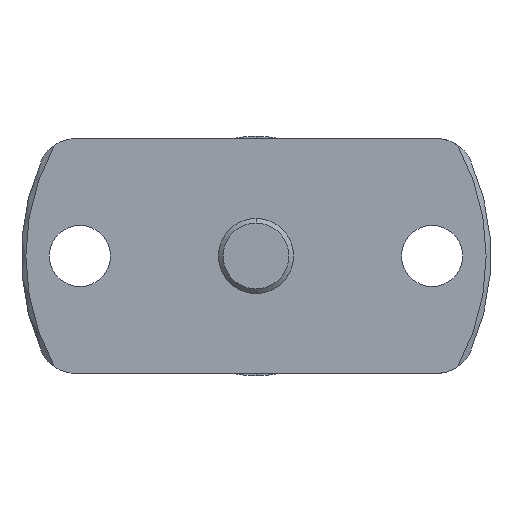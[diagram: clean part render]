
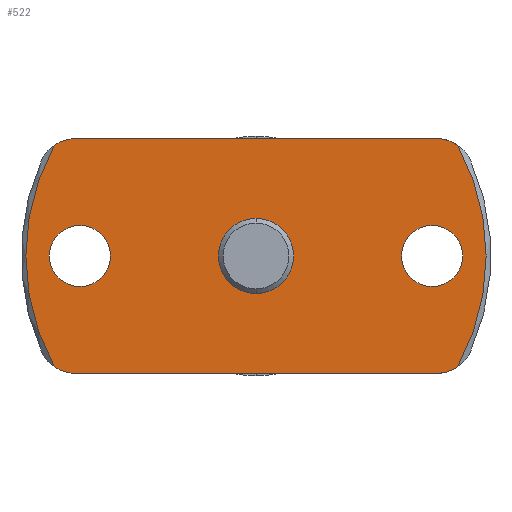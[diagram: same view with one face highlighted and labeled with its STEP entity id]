
A CAD part, front view. The second image highlights one B-rep face of the part: STEP entity #522.
In plain terms, the highlighted planar face has unit normal (0, -1, 0).
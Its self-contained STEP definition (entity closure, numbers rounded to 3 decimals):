
#155=CARTESIAN_POINT('Vertex',(-42.952,0.,-23.583)) ;
#175=CARTESIAN_POINT('Vertex',(-38.406,0.,-25.)) ;
#178=CARTESIAN_POINT('Axis2P3D Location',(-38.406,0.,-17.)) ;
#199=CARTESIAN_POINT('Axis2P3D Location',(0.,0.,0.)) ;
#203=CARTESIAN_POINT('Vertex',(-42.952,0.,23.583)) ;
#234=CARTESIAN_POINT('Axis2P3D Location',(-38.406,0.,17.)) ;
#238=CARTESIAN_POINT('Vertex',(-38.406,0.,25.)) ;
#393=CARTESIAN_POINT('Vertex',(38.406,0.,-25.)) ;
#396=CARTESIAN_POINT('Line Origine',(0.,0.,-25.)) ;
#415=CARTESIAN_POINT('Axis2P3D Location',(8.,0.,0.)) ;
#421=CARTESIAN_POINT('Control Point',(38.406,0.,-25.)) ;
#422=CARTESIAN_POINT('Control Point',(39.237,0.,-25.)) ;
#423=CARTESIAN_POINT('Control Point',(40.068,0.,-24.892)) ;
#424=CARTESIAN_POINT('Control Point',(40.881,0.,-24.676)) ;
#425=CARTESIAN_POINT('Control Point',(41.783,0.,-24.305)) ;
#426=CARTESIAN_POINT('Control Point',(42.612,0.,-23.807)) ;
#427=CARTESIAN_POINT('Control Point',(42.727,0.,-23.735)) ;
#428=CARTESIAN_POINT('Control Point',(42.84,0.,-23.66)) ;
#429=CARTESIAN_POINT('Control Point',(42.952,0.,-23.583)) ;
#430=CARTESIAN_POINT('Vertex',(42.952,0.,-23.583)) ;
#433=CARTESIAN_POINT('Axis2P3D Location',(0.,0.,0.)) ;
#437=CARTESIAN_POINT('Vertex',(42.952,0.,23.583)) ;
#441=CARTESIAN_POINT('Control Point',(42.952,0.,23.583)) ;
#442=CARTESIAN_POINT('Control Point',(42.268,0.,24.055)) ;
#443=CARTESIAN_POINT('Control Point',(41.522,0.,24.439)) ;
#444=CARTESIAN_POINT('Control Point',(40.731,0.,24.723)) ;
#445=CARTESIAN_POINT('Control Point',(39.778,0.,24.93)) ;
#446=CARTESIAN_POINT('Control Point',(38.813,0.,24.991)) ;
#447=CARTESIAN_POINT('Control Point',(38.677,0.,24.997)) ;
#448=CARTESIAN_POINT('Control Point',(38.541,0.,25.)) ;
#449=CARTESIAN_POINT('Control Point',(38.406,0.,25.)) ;
#450=CARTESIAN_POINT('Vertex',(38.406,0.,25.)) ;
#453=CARTESIAN_POINT('Line Origine',(0.,0.,25.)) ;
#468=CARTESIAN_POINT('Axis2P3D Location',(-37.5,0.,0.)) ;
#472=CARTESIAN_POINT('Vertex',(-37.5,0.,6.5)) ;
#474=CARTESIAN_POINT('Vertex',(-37.5,0.,-6.5)) ;
#477=CARTESIAN_POINT('Axis2P3D Location',(-37.5,0.,0.)) ;
#486=CARTESIAN_POINT('Axis2P3D Location',(37.5,0.,0.)) ;
#490=CARTESIAN_POINT('Vertex',(37.5,0.,6.5)) ;
#492=CARTESIAN_POINT('Vertex',(37.5,0.,-6.5)) ;
#495=CARTESIAN_POINT('Axis2P3D Location',(37.5,0.,0.)) ;
#504=CARTESIAN_POINT('Axis2P3D Location',(0.,0.,0.)) ;
#508=CARTESIAN_POINT('Vertex',(0.,0.,8.)) ;
#510=CARTESIAN_POINT('Vertex',(0.,0.,-8.)) ;
#513=CARTESIAN_POINT('Axis2P3D Location',(0.,0.,0.)) ;
#179=DIRECTION('Axis2P3D Direction',(0.,1.,0.)) ;
#200=DIRECTION('Axis2P3D Direction',(0.,1.,0.)) ;
#235=DIRECTION('Axis2P3D Direction',(0.,1.,0.)) ;
#397=DIRECTION('Vector Direction',(-1.,0.,0.)) ;
#416=DIRECTION('Axis2P3D Direction',(0.,1.,0.)) ;
#417=DIRECTION('Axis2P3D XDirection',(0.,0.,1.)) ;
#434=DIRECTION('Axis2P3D Direction',(0.,1.,0.)) ;
#454=DIRECTION('Vector Direction',(1.,0.,0.)) ;
#469=DIRECTION('Axis2P3D Direction',(0.,1.,0.)) ;
#478=DIRECTION('Axis2P3D Direction',(0.,1.,0.)) ;
#487=DIRECTION('Axis2P3D Direction',(0.,1.,0.)) ;
#496=DIRECTION('Axis2P3D Direction',(0.,1.,0.)) ;
#505=DIRECTION('Axis2P3D Direction',(0.,1.,0.)) ;
#514=DIRECTION('Axis2P3D Direction',(0.,1.,0.)) ;
#180=AXIS2_PLACEMENT_3D('Circle Axis2P3D',#178,#179,$) ;
#201=AXIS2_PLACEMENT_3D('Circle Axis2P3D',#199,#200,$) ;
#236=AXIS2_PLACEMENT_3D('Circle Axis2P3D',#234,#235,$) ;
#418=AXIS2_PLACEMENT_3D('Plane Axis2P3D',#415,#416,#417) ;
#435=AXIS2_PLACEMENT_3D('Circle Axis2P3D',#433,#434,$) ;
#470=AXIS2_PLACEMENT_3D('Circle Axis2P3D',#468,#469,$) ;
#479=AXIS2_PLACEMENT_3D('Circle Axis2P3D',#477,#478,$) ;
#488=AXIS2_PLACEMENT_3D('Circle Axis2P3D',#486,#487,$) ;
#497=AXIS2_PLACEMENT_3D('Circle Axis2P3D',#495,#496,$) ;
#506=AXIS2_PLACEMENT_3D('Circle Axis2P3D',#504,#505,$) ;
#515=AXIS2_PLACEMENT_3D('Circle Axis2P3D',#513,#514,$) ;
#459=ORIENTED_EDGE('',*,*,#400,.F.) ;
#460=ORIENTED_EDGE('',*,*,#432,.T.) ;
#461=ORIENTED_EDGE('',*,*,#439,.F.) ;
#462=ORIENTED_EDGE('',*,*,#452,.T.) ;
#463=ORIENTED_EDGE('',*,*,#457,.F.) ;
#464=ORIENTED_EDGE('',*,*,#240,.T.) ;
#465=ORIENTED_EDGE('',*,*,#205,.F.) ;
#466=ORIENTED_EDGE('',*,*,#182,.T.) ;
#483=ORIENTED_EDGE('',*,*,#476,.T.) ;
#484=ORIENTED_EDGE('',*,*,#481,.T.) ;
#501=ORIENTED_EDGE('',*,*,#494,.T.) ;
#502=ORIENTED_EDGE('',*,*,#499,.T.) ;
#519=ORIENTED_EDGE('',*,*,#512,.T.) ;
#520=ORIENTED_EDGE('',*,*,#517,.T.) ;
#485=FACE_BOUND('',#482,.T.) ;
#503=FACE_BOUND('',#500,.T.) ;
#521=FACE_BOUND('',#518,.T.) ;
#398=VECTOR('Line Direction',#397,1.) ;
#455=VECTOR('Line Direction',#454,1.) ;
#522=ADVANCED_FACE('NONE',(#467,#485,#503,#521),#419,.F.) ;
#420=B_SPLINE_CURVE_WITH_KNOTS('',5,(#421,#422,#423,#424,#425,#426,#427,#428,#429),.UNSPECIFIED.,.F.,.U.,(6,3,6),(0.,5.879,6.837),.UNSPECIFIED.) ;
#440=B_SPLINE_CURVE_WITH_KNOTS('',5,(#441,#442,#443,#444,#445,#446,#447,#448,#449),.UNSPECIFIED.,.F.,.U.,(6,3,6),(0.,5.879,6.837),.UNSPECIFIED.) ;
#181=CIRCLE('generated circle',#180,8.) ;
#202=CIRCLE('generated circle',#201,49.) ;
#237=CIRCLE('generated circle',#236,8.) ;
#436=CIRCLE('generated circle',#435,49.) ;
#471=CIRCLE('generated circle',#470,6.5) ;
#480=CIRCLE('generated circle',#479,6.5) ;
#489=CIRCLE('generated circle',#488,6.5) ;
#498=CIRCLE('generated circle',#497,6.5) ;
#507=CIRCLE('generated circle',#506,8.) ;
#516=CIRCLE('generated circle',#515,8.) ;
#182=EDGE_CURVE('',#156,#176,#181,.F.) ;
#205=EDGE_CURVE('',#156,#204,#202,.T.) ;
#240=EDGE_CURVE('',#239,#204,#237,.F.) ;
#400=EDGE_CURVE('',#394,#176,#399,.T.) ;
#432=EDGE_CURVE('',#394,#431,#420,.T.) ;
#439=EDGE_CURVE('',#438,#431,#436,.T.) ;
#452=EDGE_CURVE('',#438,#451,#440,.T.) ;
#457=EDGE_CURVE('',#239,#451,#456,.T.) ;
#476=EDGE_CURVE('',#473,#475,#471,.T.) ;
#481=EDGE_CURVE('',#475,#473,#480,.T.) ;
#494=EDGE_CURVE('',#491,#493,#489,.T.) ;
#499=EDGE_CURVE('',#493,#491,#498,.T.) ;
#512=EDGE_CURVE('',#509,#511,#507,.T.) ;
#517=EDGE_CURVE('',#511,#509,#516,.T.) ;
#458=EDGE_LOOP('',(#459,#460,#461,#462,#463,#464,#465,#466)) ;
#482=EDGE_LOOP('',(#483,#484)) ;
#500=EDGE_LOOP('',(#501,#502)) ;
#518=EDGE_LOOP('',(#519,#520)) ;
#467=FACE_OUTER_BOUND('',#458,.T.) ;
#399=LINE('Line',#396,#398) ;
#456=LINE('Line',#453,#455) ;
#419=PLANE('Plane',#418) ;
#156=VERTEX_POINT('',#155) ;
#176=VERTEX_POINT('',#175) ;
#204=VERTEX_POINT('',#203) ;
#239=VERTEX_POINT('',#238) ;
#394=VERTEX_POINT('',#393) ;
#431=VERTEX_POINT('',#430) ;
#438=VERTEX_POINT('',#437) ;
#451=VERTEX_POINT('',#450) ;
#473=VERTEX_POINT('',#472) ;
#475=VERTEX_POINT('',#474) ;
#491=VERTEX_POINT('',#490) ;
#493=VERTEX_POINT('',#492) ;
#509=VERTEX_POINT('',#508) ;
#511=VERTEX_POINT('',#510) ;
